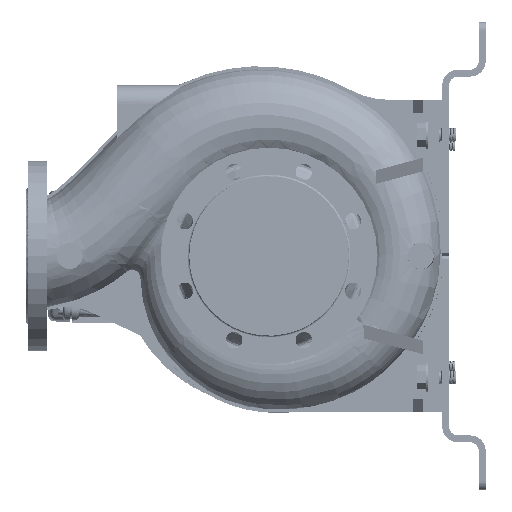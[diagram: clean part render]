
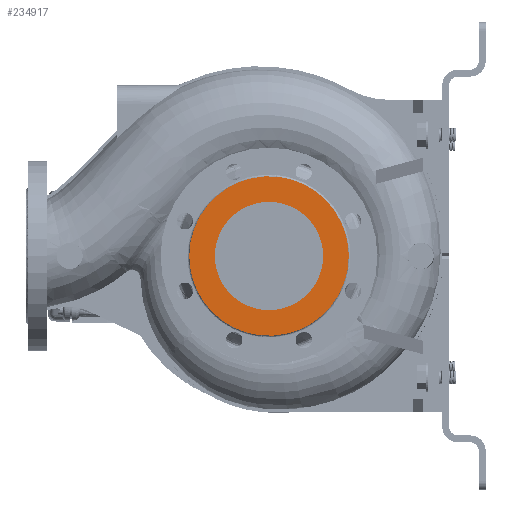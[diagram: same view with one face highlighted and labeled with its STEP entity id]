
A CAD part, left-side view. The second image highlights one B-rep face of the part: STEP entity #234917.
In plain terms, the highlighted planar face has unit normal (-1, 0, 0).
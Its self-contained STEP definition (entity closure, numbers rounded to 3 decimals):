
#966 = CARTESIAN_POINT ( 'NONE',  ( -125., 0.001, 92.593 ) ) ;
#2197 = CARTESIAN_POINT ( 'NONE',  ( -125., -92., 0. ) ) ;
#16505 = CARTESIAN_POINT ( 'NONE',  ( -125., 43.438, -81.267 ) ) ;
#17833 = CARTESIAN_POINT ( 'NONE',  ( -125., 32.548, 86.419 ) ) ;
#20375 = CARTESIAN_POINT ( 'NONE',  ( -125., -90.814, 18.064 ) ) ;
#29009 = EDGE_LOOP ( 'NONE', ( #185627, #235068 ) ) ;
#29887 = CIRCLE ( 'NONE', #191048, 62.5 ) ;
#37199 = CARTESIAN_POINT ( 'NONE',  ( -125., 66.273, 64.149 ) ) ;
#38467 = CARTESIAN_POINT ( 'NONE',  ( -125., 90.377, 17.977 ) ) ;
#46113 = B_SPLINE_CURVE_WITH_KNOTS ( 'NONE', 3,
 ( #2197, #236264, #56539, #157403, #254425, #60387, #75949, #176790, #77229, #116069, #119890, #196185, #16505, #158677, #174246, #233736, #59094, #139286, #135445, #156128, #153583, #253147, #234983, #118634 ),
 .UNSPECIFIED., .F., .F.,
 ( 4, 1, 1, 1, 1, 1, 1, 1, 1, 1, 1, 1, 1, 1, 1, 1, 1, 1, 1, 1, 1, 4 ),
 ( 0., 0.018, 0.036, 0.054, 0.072, 0.091, 0.109, 0.127, 0.145, 0.163, 0.181, 0.19, 0.199, 0.208, 0.217, 0.231, 0.244, 0.254, 0.263, 0.272, 0.281, 0.29 ),
 .UNSPECIFIED. ) ;
#56539 = CARTESIAN_POINT ( 'NONE',  ( -125., -90.814, -18.064 ) ) ;
#57488 = DIRECTION ( 'NONE',  ( 0., 0., -1. ) ) ;
#59094 = CARTESIAN_POINT ( 'NONE',  ( -125., 74.163, -55.003 ) ) ;
#59143 = CARTESIAN_POINT ( 'NONE',  ( -125., -76.988, 51.442 ) ) ;
#60387 = CARTESIAN_POINT ( 'NONE',  ( -125., -65.473, -65.473 ) ) ;
#69325 = AXIS2_PLACEMENT_3D ( 'NONE', #226864, #128586, #71646 ) ;
#69505 = VERTEX_POINT ( 'NONE', #211601 ) ;
#71646 = DIRECTION ( 'NONE',  ( 0., 0., -1. ) ) ;
#72634 = PLANE ( 'NONE',  #155477 ) ;
#75949 = CARTESIAN_POINT ( 'NONE',  ( -125., -51.442, -76.988 ) ) ;
#77229 = CARTESIAN_POINT ( 'NONE',  ( -125., -18.064, -90.814 ) ) ;
#78545 = CARTESIAN_POINT ( 'NONE',  ( -125., 85.133, 35.264 ) ) ;
#91354 = EDGE_CURVE ( 'NONE', #69505, #136109, #197432, .T. ) ;
#93334 = CARTESIAN_POINT ( 'NONE',  ( -125., -93.104, 93.104 ) ) ;
#94153 = CARTESIAN_POINT ( 'NONE',  ( -125., -92., 0. ) ) ;
#97396 = B_SPLINE_CURVE_WITH_KNOTS ( 'NONE', 3,
 ( #196241, #233787, #135498, #38467, #214332, #78545, #97984, #216906, #37199, #116126, #118686, #194964, #17833, #176845, #966, #158734, #175576, #157451, #134234, #59143, #197500, #20375, #99257, #94153 ),
 .UNSPECIFIED., .F., .F.,
 ( 4, 1, 1, 1, 1, 1, 1, 1, 1, 1, 1, 1, 1, 1, 1, 1, 1, 1, 1, 1, 1, 4 ),
 ( 0., 0.009, 0.018, 0.027, 0.036, 0.045, 0.059, 0.073, 0.082, 0.091, 0.1, 0.109, 0.127, 0.145, 0.163, 0.181, 0.199, 0.218, 0.236, 0.254, 0.272, 0.29 ),
 .UNSPECIFIED. ) ;
#97984 = CARTESIAN_POINT ( 'NONE',  ( -125., 80.624, 44.798 ) ) ;
#99257 = CARTESIAN_POINT ( 'NONE',  ( -125., -92., 6.021 ) ) ;
#102143 = VERTEX_POINT ( 'NONE', #216545 ) ;
#105004 = EDGE_CURVE ( 'NONE', #136109, #69505, #29887, .T. ) ;
#116069 = CARTESIAN_POINT ( 'NONE',  ( -125., 0.001, -92.593 ) ) ;
#116126 = CARTESIAN_POINT ( 'NONE',  ( -125., 58.458, 71.231 ) ) ;
#116311 = ORIENTED_EDGE ( 'NONE', *, *, #211034, .F. ) ;
#118634 = CARTESIAN_POINT ( 'NONE',  ( -125., 92., 0. ) ) ;
#118686 = CARTESIAN_POINT ( 'NONE',  ( -125., 51.195, 76.618 ) ) ;
#119890 = CARTESIAN_POINT ( 'NONE',  ( -125., 18.062, -90.815 ) ) ;
#127098 = EDGE_LOOP ( 'NONE', ( #181773, #116311 ) ) ;
#128586 = DIRECTION ( 'NONE',  ( -1., 0., 0. ) ) ;
#134234 = CARTESIAN_POINT ( 'NONE',  ( -125., -65.473, 65.473 ) ) ;
#135144 = DIRECTION ( 'NONE',  ( -1., 0., 0. ) ) ;
#135445 = CARTESIAN_POINT ( 'NONE',  ( -125., 85.133, -35.264 ) ) ;
#135498 = CARTESIAN_POINT ( 'NONE',  ( -125., 91.704, 9.033 ) ) ;
#136109 = VERTEX_POINT ( 'NONE', #170474 ) ;
#139286 = CARTESIAN_POINT ( 'NONE',  ( -125., 80.624, -44.798 ) ) ;
#140970 = VERTEX_POINT ( 'NONE', #226102 ) ;
#146434 = FACE_OUTER_BOUND ( 'NONE', #127098, .T. ) ;
#151472 = EDGE_CURVE ( 'NONE', #140970, #102143, #46113, .T. ) ;
#153583 = CARTESIAN_POINT ( 'NONE',  ( -125., 90.377, -17.977 ) ) ;
#155477 = AXIS2_PLACEMENT_3D ( 'NONE', #93334, #172216, #251099 ) ;
#156128 = CARTESIAN_POINT ( 'NONE',  ( -125., 88.18, -26.749 ) ) ;
#157403 = CARTESIAN_POINT ( 'NONE',  ( -125., -85.545, -35.434 ) ) ;
#157451 = CARTESIAN_POINT ( 'NONE',  ( -125., -51.442, 76.988 ) ) ;
#158677 = CARTESIAN_POINT ( 'NONE',  ( -125., 51.195, -76.618 ) ) ;
#158734 = CARTESIAN_POINT ( 'NONE',  ( -125., -18.064, 90.814 ) ) ;
#170474 = CARTESIAN_POINT ( 'NONE',  ( -125., 0., -62.5 ) ) ;
#172216 = DIRECTION ( 'NONE',  ( 1., 0., 0. ) ) ;
#174246 = CARTESIAN_POINT ( 'NONE',  ( -125., 58.458, -71.231 ) ) ;
#175576 = CARTESIAN_POINT ( 'NONE',  ( -125., -35.434, 85.545 ) ) ;
#176790 = CARTESIAN_POINT ( 'NONE',  ( -125., -35.434, -85.545 ) ) ;
#176845 = CARTESIAN_POINT ( 'NONE',  ( -125., 18.062, 90.815 ) ) ;
#181235 = CARTESIAN_POINT ( 'NONE',  ( -125., 0., 0. ) ) ;
#181773 = ORIENTED_EDGE ( 'NONE', *, *, #151472, .F. ) ;
#185627 = ORIENTED_EDGE ( 'NONE', *, *, #105004, .F. ) ;
#191048 = AXIS2_PLACEMENT_3D ( 'NONE', #181235, #135144, #57488 ) ;
#194964 = CARTESIAN_POINT ( 'NONE',  ( -125., 43.438, 81.267 ) ) ;
#196185 = CARTESIAN_POINT ( 'NONE',  ( -125., 32.548, -86.419 ) ) ;
#196241 = CARTESIAN_POINT ( 'NONE',  ( -125., 92., 0. ) ) ;
#197432 = CIRCLE ( 'NONE', #69325, 62.5 ) ;
#197500 = CARTESIAN_POINT ( 'NONE',  ( -125., -85.545, 35.434 ) ) ;
#211034 = EDGE_CURVE ( 'NONE', #102143, #140970, #97396, .T. ) ;
#211601 = CARTESIAN_POINT ( 'NONE',  ( -125., 0., 62.5 ) ) ;
#214332 = CARTESIAN_POINT ( 'NONE',  ( -125., 88.18, 26.749 ) ) ;
#216545 = CARTESIAN_POINT ( 'NONE',  ( -125., 92., 0. ) ) ;
#216906 = CARTESIAN_POINT ( 'NONE',  ( -125., 74.163, 55.003 ) ) ;
#226102 = CARTESIAN_POINT ( 'NONE',  ( -125., -92., 0. ) ) ;
#226864 = CARTESIAN_POINT ( 'NONE',  ( -125., 0., 0. ) ) ;
#233736 = CARTESIAN_POINT ( 'NONE',  ( -125., 66.273, -64.149 ) ) ;
#233787 = CARTESIAN_POINT ( 'NONE',  ( -125., 92., 3.009 ) ) ;
#234917 = ADVANCED_FACE ( 'NONE', ( #249835, #146434 ), #72634, .F. ) ;
#234983 = CARTESIAN_POINT ( 'NONE',  ( -125., 92., -3.009 ) ) ;
#235068 = ORIENTED_EDGE ( 'NONE', *, *, #91354, .F. ) ;
#236264 = CARTESIAN_POINT ( 'NONE',  ( -125., -92., -6.021 ) ) ;
#249835 = FACE_BOUND ( 'NONE', #29009, .T. ) ;
#251099 = DIRECTION ( 'NONE',  ( 0., 0., -1. ) ) ;
#253147 = CARTESIAN_POINT ( 'NONE',  ( -125., 91.704, -9.033 ) ) ;
#254425 = CARTESIAN_POINT ( 'NONE',  ( -125., -76.988, -51.442 ) ) ;
